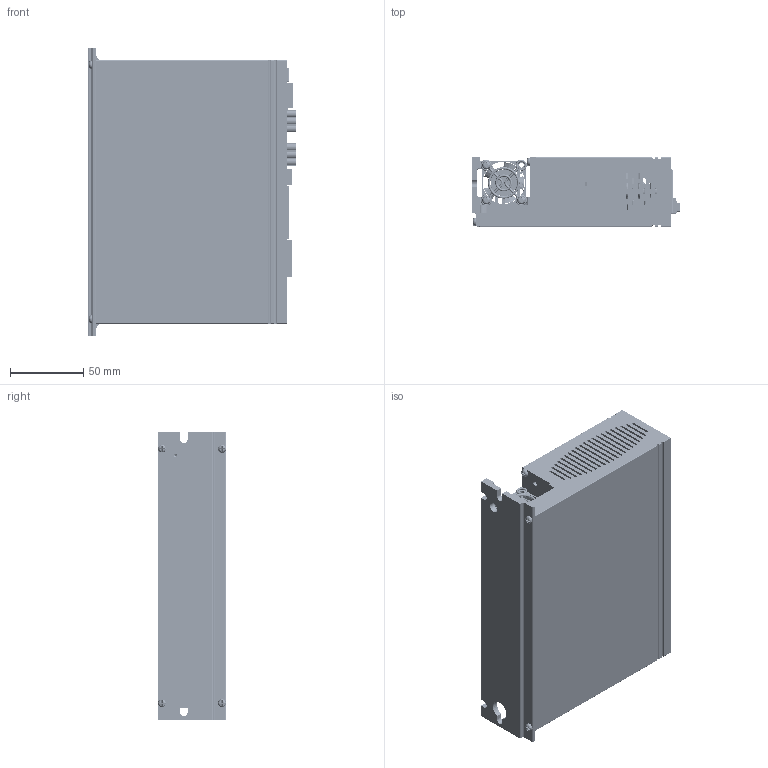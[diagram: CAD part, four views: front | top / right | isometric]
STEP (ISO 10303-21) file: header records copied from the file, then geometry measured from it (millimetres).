
FILE_DESCRIPTION((''),'2;1');
FILE_NAME('SW5_ISD00_ASM','2020-07-29T10:31:07',('Matteo Maccalli'),(''),'CREO PARAMETRIC BY PTC INC, 2019344','CREO PARAMETRIC BY PTC INC, 2019344','');
FILE_SCHEMA(('AUTOMOTIVE_DESIGN { 1 0 10303 214 1 1 1 1 }'));
Products named in the file (232): ISD00_DISSIPATORE-03; AD_00883-03_ISD00; SCATOLA_SW5_D-04; ACC_2E9X9E5; FAN-HOUSE-30X30X10-PROMOCO_FAN-; FAN-30X30X10-PROMOCO_FAN-KDE050; GRIGLIA_30X30; ACC_2E9X19; ISD00_EARTH_FIX-01; AD_01053_ISD00_BLK; BOARD-185; CPP_4X13X9_P10_1_2; CY204_1_ASM; CPP_4X13X9_P10; CY203_1_ASM; CY202_1_ASM; 79202-X02LF; JMP500_ASM; CE_35X30_P10; CE202_ASM; BOARD-38953; USER_LIBRARY-TSSOP-16-1_1_2; IC402_ASM; USER_LIBRARY-ARRAY-1206-4-58410; USER_LIBRARY-ARRAY-1206-4-68119; USER_LIBRARY-ARRAY-1206-4-70352; USER_LIBRARY-ARRAY-1206-4-76785; USER_LIBRARY-ARRAY-1206-4-58388_ASM; RN403_ASM; RN402_ASM; RN401_ASM; RN105_ASM; RN104_ASM; USER_LIBRARY-RES0603-1_1_2; R405_ASM; USER_LIBRARY-TSSOP-16-1; IC401_ASM; IC100_ASM; SW3DPS-0603_SMD_CAPACITOR_1_2; C401_ASM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
Assembly tree (279 placements, depth 8):
  SW5_ISD00_ASM
    ISD00_DISSIPATORE-03
    AD_00883-03_ISD00
    SCATOLA_SW5_D-04
    ACC_2E9X9E5  x4
    FAN-HOUSE-30X30X10-PROMOCO_FAN-
    FAN-30X30X10-PROMOCO_FAN-KDE050
    GRIGLIA_30X30
    ACC_2E9X19  x3
    ISD00_EARTH_FIX-01
    AD_01053_ISD00_BLK
    ASM0001_ASM
      PCB_ASM
        BOARD-185
        CY204_1_ASM
          CPP_4X13X9_P10_1_2
        CY203_1_ASM
          CPP_4X13X9_P10
        CY202_1_ASM
          CPP_4X13X9_P10
        JMP500_ASM
          79202-X02LF  x2
        CE202_ASM
          CE_35X30_P10
        VIS400-38854_ASM
          ISD00VIS-02_ASM
            BOARD-38953
            IC402_ASM
              USER_LIBRARY-TSSOP-16-1_1_2
            RN403_ASM
              USER_LIBRARY-ARRAY-1206-4-58388_ASM
                USER_LIBRARY-ARRAY-1206-4-58410
                USER_LIBRARY-ARRAY-1206-4-68119
                USER_LIBRARY-ARRAY-1206-4-70352
                USER_LIBRARY-ARRAY-1206-4-76785
            RN402_ASM
              USER_LIBRARY-ARRAY-1206-4-58388_ASM
                USER_LIBRARY-ARRAY-1206-4-58410
                USER_LIBRARY-ARRAY-1206-4-68119
                USER_LIBRARY-ARRAY-1206-4-70352
                USER_LIBRARY-ARRAY-1206-4-76785
            RN401_ASM
              USER_LIBRARY-ARRAY-1206-4-58388_ASM
                USER_LIBRARY-ARRAY-1206-4-58410
                USER_LIBRARY-ARRAY-1206-4-68119
                USER_LIBRARY-ARRAY-1206-4-70352
                USER_LIBRARY-ARRAY-1206-4-76785
            RN105_ASM
              USER_LIBRARY-ARRAY-1206-4-58388_ASM
                USER_LIBRARY-ARRAY-1206-4-58410
                USER_LIBRARY-ARRAY-1206-4-68119
                USER_LIBRARY-ARRAY-1206-4-70352
                USER_LIBRARY-ARRAY-1206-4-76785
            RN104_ASM
              USER_LIBRARY-ARRAY-1206-4-58388_ASM
                USER_LIBRARY-ARRAY-1206-4-58410
                USER_LIBRARY-ARRAY-1206-4-68119
                USER_LIBRARY-ARRAY-1206-4-70352
                USER_LIBRARY-ARRAY-1206-4-76785
            R405_ASM
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Bounding box: 142.78 x 47 x 196.6 mm (x, y, z)
Volume: 463389.3 mm3; surface area: 357934.6 mm2
Topology: 182 solids, 189 shells, 17031 faces, 45994 edges, 29687 vertices
Faces by surface type: plane 11924, cylinder 3396, extrusion 865, cone 319, bspline 212, sphere 206, torus 109
Entity records: 582966 total; most frequent: CARTESIAN_POINT 104194, ORIENTED_EDGE 71362, DIRECTION 64959, PRESENTATION_STYLE_ASSIGNMENT 37125, EDGE_CURVE 35695, STYLED_ITEM 31684, CURVE_STYLE 31131, VECTOR 27511
